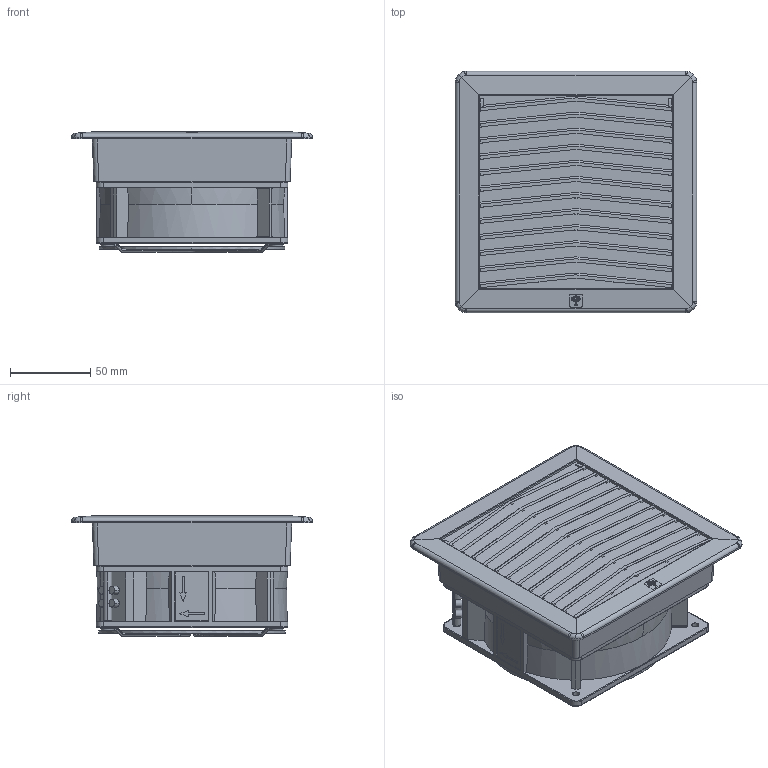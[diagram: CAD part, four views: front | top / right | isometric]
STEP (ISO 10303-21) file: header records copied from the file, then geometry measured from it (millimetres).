
FILE_DESCRIPTION (( 'STEP AP214' ), '1' );
FILE_NAME ('GF12KyxxxBE.STEP', '2023-10-16T13:37:15', ( '' ), ( '' ), 'SwSTEP 2.0', 'SolidWorks 2022', '' );
FILE_SCHEMA (( 'AUTOMOTIVE_DESIGN' ));
Length unit declared in the file: millimetre
Products named in the file (7): GF12KyxxxBE; GF12B-7035_semplificata; DT-01853DSI_Semplificata; GF12C-7035_Semplificato; GF12KUG_assieme semplificato; DT-02360DSI_semplificata; DT-01843DSI_D. 4,5 - sp.0.3
Assembly tree (6 placements, depth 3):
  GF12KyxxxBE
    GF12KUG_assieme semplificato
      GF12B-7035_semplificata
      GF12C-7035_Semplificato
    DT-02360DSI_semplificata
    DT-01853DSI_Semplificata
    DT-01843DSI_D. 4,5 - sp.0.3
Bounding box: 150 x 150 x 74.86 mm (x, y, z)
Volume: 956278.1 mm3; surface area: 147308 mm2
Topology: 16 solids, 25 shells, 595 faces, 1507 edges, 992 vertices
Faces by surface type: plane 300, bspline 166, cylinder 103, cone 23, torus 3
Entity records: 29401 total; most frequent: CARTESIAN_POINT 16158, ORIENTED_EDGE 3014, DIRECTION 2050, EDGE_CURVE 1507, VERTEX_POINT 992, LINE 810, VECTOR 810, EDGE_LOOP 645
